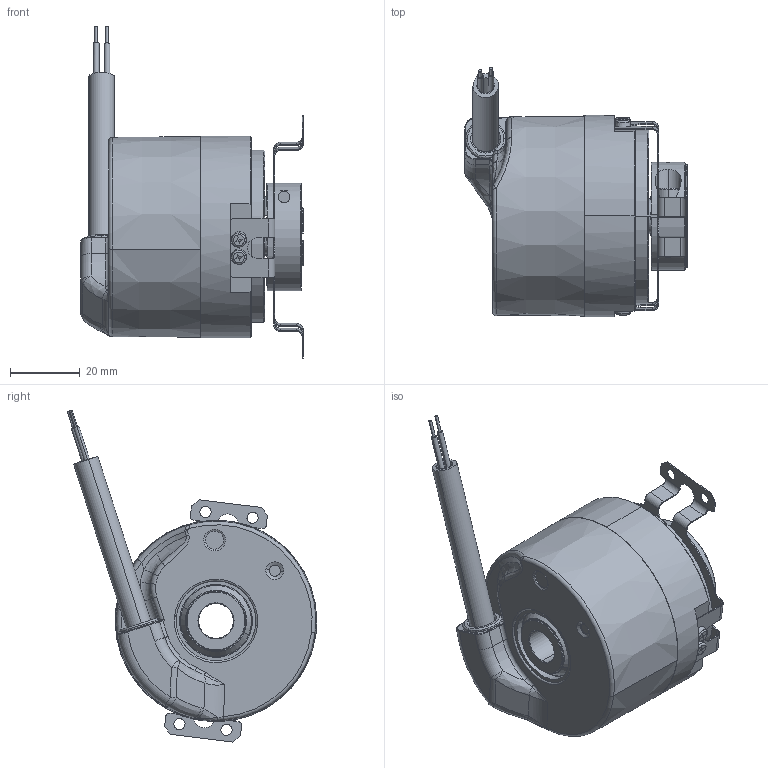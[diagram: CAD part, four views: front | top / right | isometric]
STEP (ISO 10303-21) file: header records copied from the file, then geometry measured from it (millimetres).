
FILE_DESCRIPTION (( 'STEP AP214' ), '1' );
FILE_NAME ('5834SIL.B3XE.XXXX.STEP', '2010-11-18T12:59:55', ( 'admin' ), ( 'Fritz Kübler GmbH' ), 'SwSTEP 2.0', 'SolidWorks 2009', '' );
FILE_SCHEMA (( 'AUTOMOTIVE_DESIGN' ));
Length unit declared in the file: millimetre
Products named in the file (1): 5834SIL.B3XE.XXXX
Bounding box: 64 x 71.81 x 95.55 mm (x, y, z)
Surface area: 26906.1 mm2 (no closed solid volume)
Topology: 0 solids, 17 shells, 430 faces, 1190 edges, 759 vertices
Faces by surface type: plane 171, cylinder 144, cone 52, torus 30, bspline 30, sphere 3
Entity records: 21780 total; most frequent: CARTESIAN_POINT 6088, DIRECTION 2375, ORIENTED_EDGE 2113, EDGE_CURVE 1187, AXIS2_PLACEMENT_3D 899, VERTEX_POINT 759, VECTOR 577, LINE 577
